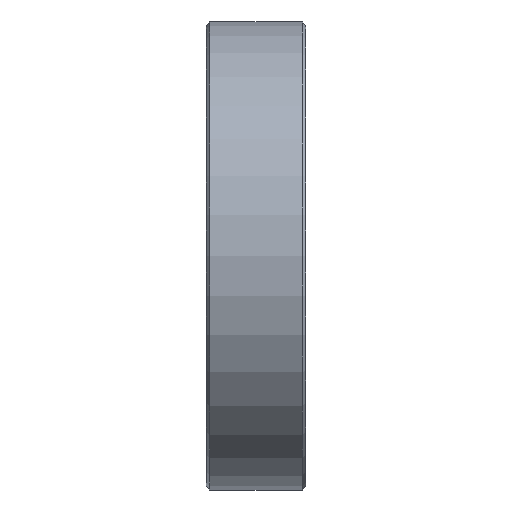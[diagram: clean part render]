
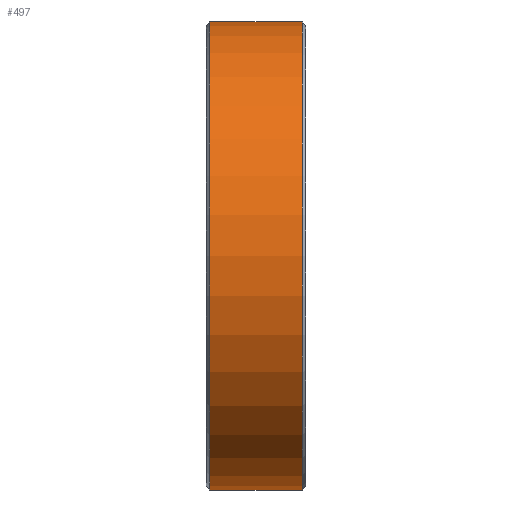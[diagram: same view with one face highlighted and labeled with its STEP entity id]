
A CAD part, top view. The second image highlights one B-rep face of the part: STEP entity #497.
In plain terms, the highlighted cylindrical face has radius 61 mm (diameter 122 mm), a partial arc.
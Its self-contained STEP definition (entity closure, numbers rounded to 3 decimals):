
#456=CARTESIAN_POINT('',(0.0,0.0,0.0));
#457=DIRECTION('',(-1.0,0.0,0.0));
#458=DIRECTION('',(0.0,-1.0,0.0));
#459=AXIS2_PLACEMENT_3D('',#456,#457,#458);
#460=CYLINDRICAL_SURFACE('',#459,61.);
#461=CARTESIAN_POINT('',(-25.0,-11.,-60.0));
#462=VERTEX_POINT('',#461);
#463=CARTESIAN_POINT('',(-25.0,11.,-60.0));
#464=VERTEX_POINT('',#463);
#465=CARTESIAN_POINT('',(-25.0,0.0,0.0));
#466=DIRECTION('',(-1.0,0.0,0.0));
#467=DIRECTION('',(0.0,-1.0,0.0));
#468=AXIS2_PLACEMENT_3D('',#465,#466,#467);
#469=CIRCLE('',#468,61.);
#470=EDGE_CURVE('',#462,#464,#469,.T.);
#471=ORIENTED_EDGE('',*,*,#470,.F.);
#472=CARTESIAN_POINT('',(-1.0,-11.,-60.0));
#473=VERTEX_POINT('',#472);
#474=CARTESIAN_POINT('',(-25.0,-11.,-60.0));
#475=DIRECTION('',(1.0,0.0,0.0));
#476=VECTOR('',#475,24.0);
#477=LINE('',#474,#476);
#478=EDGE_CURVE('',#462,#473,#477,.T.);
#479=ORIENTED_EDGE('',*,*,#478,.T.);
#480=CARTESIAN_POINT('',(-1.0,11.,-60.0));
#481=VERTEX_POINT('',#480);
#482=CARTESIAN_POINT('',(-1.0,0.0,0.0));
#483=DIRECTION('',(1.0,0.0,0.0));
#484=DIRECTION('',(0.0,-1.0,0.0));
#485=AXIS2_PLACEMENT_3D('',#482,#483,#484);
#486=CIRCLE('',#485,61.);
#487=EDGE_CURVE('',#481,#473,#486,.T.);
#488=ORIENTED_EDGE('',*,*,#487,.F.);
#489=CARTESIAN_POINT('',(-1.0,11.,-60.0));
#490=DIRECTION('',(-1.0,0.0,0.0));
#491=VECTOR('',#490,24.0);
#492=LINE('',#489,#491);
#493=EDGE_CURVE('',#481,#464,#492,.T.);
#494=ORIENTED_EDGE('',*,*,#493,.T.);
#495=EDGE_LOOP('',(#471,#479,#488,#494));
#496=FACE_OUTER_BOUND('',#495,.T.);
#497=ADVANCED_FACE('',(#496),#460,.T.);
